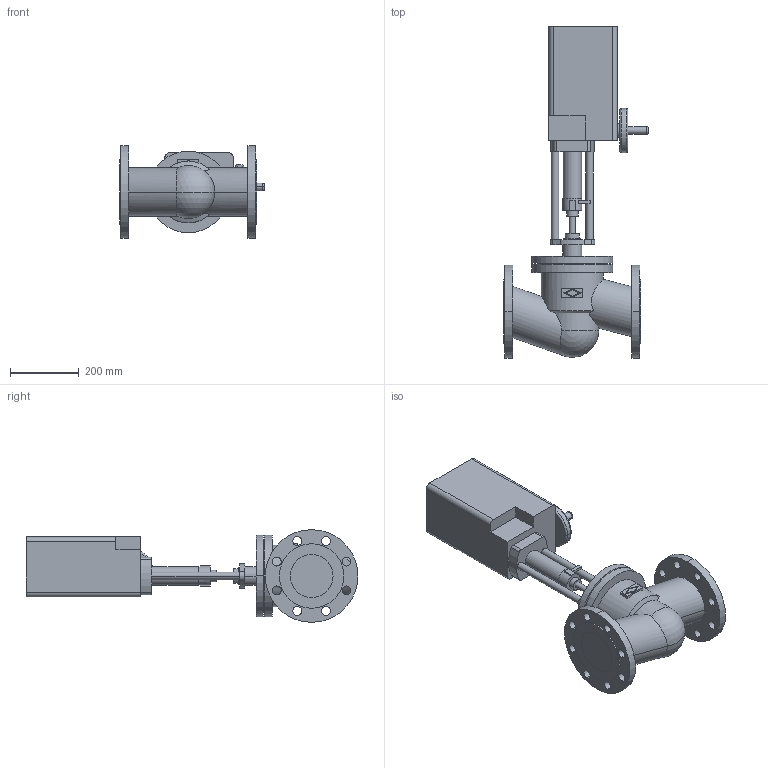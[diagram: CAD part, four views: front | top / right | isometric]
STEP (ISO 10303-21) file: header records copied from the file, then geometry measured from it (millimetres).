
FILE_DESCRIPTION(('OneSpaceDesigner STEP Export'),'2;1');
FILE_NAME('c000003129.stp','2007-01-16T10:43:52',(''),(''),'OneSpace Designer STEP processor for AP214 (Solid Model)','OneSpace Designer 14.00B 27-May-2006 (C) CoCreate Software GmbH','');
FILE_SCHEMA(('AUTOMOTIVE_DESIGN { 1 0 10303 214 1 1 1 1 }'));
Length unit declared in the file: millimetre
Products named in the file (2): 1; 2
Bounding box: 421.6 x 967.5 x 270 mm (x, y, z)
Volume: 25752833.8 mm3; surface area: 1048519.6 mm2
Topology: 2 solids, 2 shells, 180 faces, 442 edges, 292 vertices
Faces by surface type: cylinder 96, plane 74, torus 6, cone 2, sphere 2
Entity records: 5108 total; most frequent: CARTESIAN_POINT 1087, ORIENTED_EDGE 880, DIRECTION 740, EDGE_CURVE 440, VERTEX_POINT 292, AXIS2_PLACEMENT_3D 266, EDGE_LOOP 240, VECTOR 208
